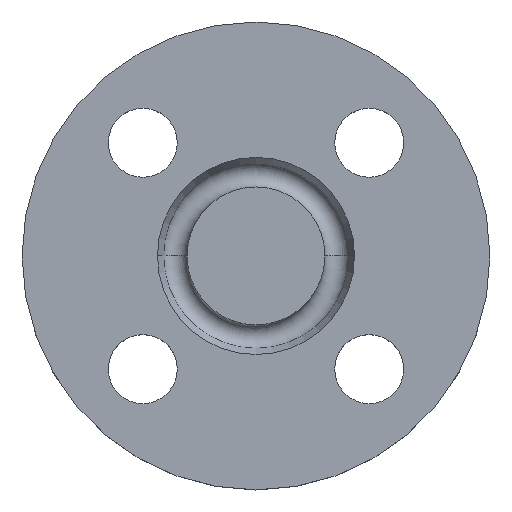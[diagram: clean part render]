
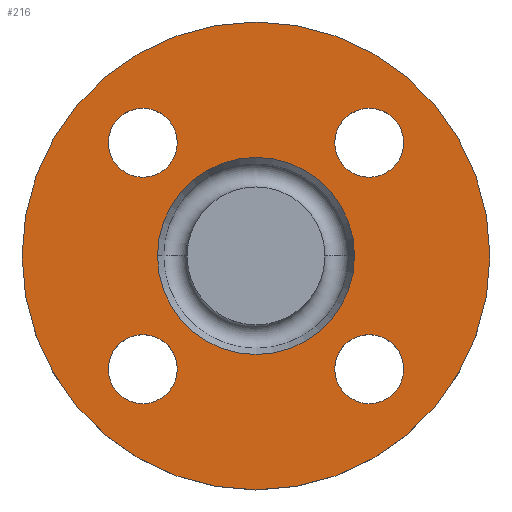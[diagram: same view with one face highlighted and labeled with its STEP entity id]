
A CAD part, top view. The second image highlights one B-rep face of the part: STEP entity #216.
In plain terms, the highlighted planar face has unit normal (0, 0, 1).
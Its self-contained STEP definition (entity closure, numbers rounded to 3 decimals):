
#10 = CIRCLE ( 'NONE', #11, 20. ) ;
#11 = AXIS2_PLACEMENT_3D ( 'NONE', #458, #459, #460 ) ;
#12 = EDGE_CURVE ( 'NONE', #175, #413, #10, .T. ) ;
#15 = EDGE_CURVE ( 'NONE', #427, #379, #18, .T. ) ;
#18 = CIRCLE ( 'NONE', #19, 7. ) ;
#19 = AXIS2_PLACEMENT_3D ( 'NONE', #464, #465, #466 ) ;
#24 = CIRCLE ( 'NONE', #25, 47.5 ) ;
#25 = AXIS2_PLACEMENT_3D ( 'NONE', #474, #475, #476 ) ;
#28 = CIRCLE ( 'NONE', #29, 47.5 ) ;
#29 = AXIS2_PLACEMENT_3D ( 'NONE', #486, #487, #489 ) ;
#39 = EDGE_CURVE ( 'NONE', #438, #418, #24, .T. ) ;
#42 = CIRCLE ( 'NONE', #43, 7. ) ;
#43 = AXIS2_PLACEMENT_3D ( 'NONE', #518, #519, #520 ) ;
#49 = CIRCLE ( 'NONE', #51, 7. ) ;
#51 = AXIS2_PLACEMENT_3D ( 'NONE', #544, #545, #546 ) ;
#64 = EDGE_CURVE ( 'NONE', #418, #438, #28, .T. ) ;
#74 = AXIS2_PLACEMENT_3D ( 'NONE', #600, #602, #603 ) ;
#78 = CIRCLE ( 'NONE', #79, 7. ) ;
#79 = AXIS2_PLACEMENT_3D ( 'NONE', #607, #608, #609 ) ;
#93 = CIRCLE ( 'NONE', #94, 7. ) ;
#94 = AXIS2_PLACEMENT_3D ( 'NONE', #611, #202, #206 ) ;
#98 = CIRCLE ( 'NONE', #165, 7. ) ;
#101 = AXIS2_PLACEMENT_3D ( 'NONE', #219, #220, #221 ) ;
#109 = EDGE_CURVE ( 'NONE', #437, #426, #42, .T. ) ;
#117 = CARTESIAN_POINT ( 'NONE',  ( -22.981, 22.981, -2. ) ) ;
#121 = DIRECTION ( 'NONE',  ( 0., 0., -1. ) ) ;
#123 = DIRECTION ( 'NONE',  ( 1., 0., 0. ) ) ;
#134 = CIRCLE ( 'NONE', #135, 7. ) ;
#135 = AXIS2_PLACEMENT_3D ( 'NONE', #298, #300, #301 ) ;
#143 = AXIS2_PLACEMENT_3D ( 'NONE', #117, #121, #123 ) ;
#147 = CIRCLE ( 'NONE', #143, 7. ) ;
#162 = EDGE_CURVE ( 'NONE', #185, #432, #49, .T. ) ;
#165 = AXIS2_PLACEMENT_3D ( 'NONE', #215, #217, #218 ) ;
#166 = CIRCLE ( 'NONE', #101, 20. ) ;
#175 = VERTEX_POINT ( 'NONE', #570 ) ;
#178 = VERTEX_POINT ( 'NONE', #576 ) ;
#185 = VERTEX_POINT ( 'NONE', #583 ) ;
#187 = EDGE_LOOP ( 'NONE', ( #361, #363 ) ) ;
#191 = EDGE_LOOP ( 'NONE', ( #364, #365 ) ) ;
#192 = EDGE_LOOP ( 'NONE', ( #359, #360 ) ) ;
#194 = EDGE_LOOP ( 'NONE', ( #366, #367 ) ) ;
#202 = DIRECTION ( 'NONE',  ( 0., 0., -1. ) ) ;
#206 = DIRECTION ( 'NONE',  ( 1., 0., 0. ) ) ;
#215 = CARTESIAN_POINT ( 'NONE',  ( -22.981, -22.981, -2. ) ) ;
#216 = ADVANCED_FACE ( 'NONE', ( #592, #593, #595, #596, #597, #598 ), #599, .T. ) ;
#217 = DIRECTION ( 'NONE',  ( 0., 0., -1. ) ) ;
#218 = DIRECTION ( 'NONE',  ( 1., 0., 0. ) ) ;
#219 = CARTESIAN_POINT ( 'NONE',  ( 0., 0., -2. ) ) ;
#220 = DIRECTION ( 'NONE',  ( 0., 0., -1. ) ) ;
#221 = DIRECTION ( 'NONE',  ( -1., 0., 0. ) ) ;
#253 = CARTESIAN_POINT ( 'NONE',  ( -29.981, 22.981, -2. ) ) ;
#257 = CARTESIAN_POINT ( 'NONE',  ( -20., 0., -2. ) ) ;
#260 = CARTESIAN_POINT ( 'NONE',  ( -47.5, 0., -2. ) ) ;
#264 = CARTESIAN_POINT ( 'NONE',  ( 15.981, -22.981, -2. ) ) ;
#265 = CARTESIAN_POINT ( 'NONE',  ( -15.981, 22.981, -2. ) ) ;
#268 = CARTESIAN_POINT ( 'NONE',  ( 29.981, 22.981, -2. ) ) ;
#271 = CARTESIAN_POINT ( 'NONE',  ( 29.981, -22.981, -2. ) ) ;
#272 = CARTESIAN_POINT ( 'NONE',  ( 47.5, 0., -2. ) ) ;
#273 = EDGE_CURVE ( 'NONE', #178, #440, #78, .T. ) ;
#275 = CARTESIAN_POINT ( 'NONE',  ( -15.981, -22.981, -2. ) ) ;
#298 = CARTESIAN_POINT ( 'NONE',  ( 22.981, 22.981, -2. ) ) ;
#299 = EDGE_CURVE ( 'NONE', #426, #437, #93, .T. ) ;
#300 = DIRECTION ( 'NONE',  ( 0., 0., -1. ) ) ;
#301 = DIRECTION ( 'NONE',  ( 1., 0., 0. ) ) ;
#313 = EDGE_CURVE ( 'NONE', #440, #178, #98, .T. ) ;
#317 = EDGE_CURVE ( 'NONE', #413, #175, #166, .T. ) ;
#351 = ORIENTED_EDGE ( 'NONE', *, *, #109, .T. ) ;
#353 = ORIENTED_EDGE ( 'NONE', *, *, #299, .T. ) ;
#354 = ORIENTED_EDGE ( 'NONE', *, *, #313, .T. ) ;
#357 = ORIENTED_EDGE ( 'NONE', *, *, #273, .T. ) ;
#359 = ORIENTED_EDGE ( 'NONE', *, *, #15, .T. ) ;
#360 = ORIENTED_EDGE ( 'NONE', *, *, #610, .T. ) ;
#361 = ORIENTED_EDGE ( 'NONE', *, *, #556, .T. ) ;
#363 = ORIENTED_EDGE ( 'NONE', *, *, #162, .T. ) ;
#364 = ORIENTED_EDGE ( 'NONE', *, *, #12, .T. ) ;
#365 = ORIENTED_EDGE ( 'NONE', *, *, #317, .T. ) ;
#366 = ORIENTED_EDGE ( 'NONE', *, *, #39, .F. ) ;
#367 = ORIENTED_EDGE ( 'NONE', *, *, #64, .F. ) ;
#379 = VERTEX_POINT ( 'NONE', #253 ) ;
#413 = VERTEX_POINT ( 'NONE', #257 ) ;
#418 = VERTEX_POINT ( 'NONE', #260 ) ;
#420 = EDGE_LOOP ( 'NONE', ( #354, #357 ) ) ;
#424 = EDGE_LOOP ( 'NONE', ( #351, #353 ) ) ;
#426 = VERTEX_POINT ( 'NONE', #264 ) ;
#427 = VERTEX_POINT ( 'NONE', #265 ) ;
#432 = VERTEX_POINT ( 'NONE', #268 ) ;
#437 = VERTEX_POINT ( 'NONE', #271 ) ;
#438 = VERTEX_POINT ( 'NONE', #272 ) ;
#440 = VERTEX_POINT ( 'NONE', #275 ) ;
#458 = CARTESIAN_POINT ( 'NONE',  ( 0., 0., -2. ) ) ;
#459 = DIRECTION ( 'NONE',  ( 0., 0., -1. ) ) ;
#460 = DIRECTION ( 'NONE',  ( -1., 0., 0. ) ) ;
#464 = CARTESIAN_POINT ( 'NONE',  ( -22.981, 22.981, -2. ) ) ;
#465 = DIRECTION ( 'NONE',  ( 0., 0., -1. ) ) ;
#466 = DIRECTION ( 'NONE',  ( 1., 0., 0. ) ) ;
#474 = CARTESIAN_POINT ( 'NONE',  ( 0., 0., -2. ) ) ;
#475 = DIRECTION ( 'NONE',  ( 0., 0., -1. ) ) ;
#476 = DIRECTION ( 'NONE',  ( -1., 0., 0. ) ) ;
#486 = CARTESIAN_POINT ( 'NONE',  ( 0., 0., -2. ) ) ;
#487 = DIRECTION ( 'NONE',  ( 0., 0., -1. ) ) ;
#489 = DIRECTION ( 'NONE',  ( -1., 0., 0. ) ) ;
#518 = CARTESIAN_POINT ( 'NONE',  ( 22.981, -22.981, -2. ) ) ;
#519 = DIRECTION ( 'NONE',  ( 0., 0., -1. ) ) ;
#520 = DIRECTION ( 'NONE',  ( 1., 0., 0. ) ) ;
#544 = CARTESIAN_POINT ( 'NONE',  ( 22.981, 22.981, -2. ) ) ;
#545 = DIRECTION ( 'NONE',  ( 0., 0., -1. ) ) ;
#546 = DIRECTION ( 'NONE',  ( 1., 0., 0. ) ) ;
#556 = EDGE_CURVE ( 'NONE', #432, #185, #134, .T. ) ;
#570 = CARTESIAN_POINT ( 'NONE',  ( 20., 0., -2. ) ) ;
#576 = CARTESIAN_POINT ( 'NONE',  ( -29.981, -22.981, -2. ) ) ;
#583 = CARTESIAN_POINT ( 'NONE',  ( 15.981, 22.981, -2. ) ) ;
#592 = FACE_BOUND ( 'NONE', #424, .T. ) ;
#593 = FACE_BOUND ( 'NONE', #420, .T. ) ;
#595 = FACE_BOUND ( 'NONE', #192, .T. ) ;
#596 = FACE_BOUND ( 'NONE', #187, .T. ) ;
#597 = FACE_BOUND ( 'NONE', #191, .T. ) ;
#598 = FACE_OUTER_BOUND ( 'NONE', #194, .T. ) ;
#599 = PLANE ( 'NONE',  #74 ) ;
#600 = CARTESIAN_POINT ( 'NONE',  ( 47.5, 0., -2. ) ) ;
#602 = DIRECTION ( 'NONE',  ( 0., 0., 1. ) ) ;
#603 = DIRECTION ( 'NONE',  ( 1., 0., 0. ) ) ;
#607 = CARTESIAN_POINT ( 'NONE',  ( -22.981, -22.981, -2. ) ) ;
#608 = DIRECTION ( 'NONE',  ( 0., 0., -1. ) ) ;
#609 = DIRECTION ( 'NONE',  ( 1., 0., 0. ) ) ;
#610 = EDGE_CURVE ( 'NONE', #379, #427, #147, .T. ) ;
#611 = CARTESIAN_POINT ( 'NONE',  ( 22.981, -22.981, -2. ) ) ;
